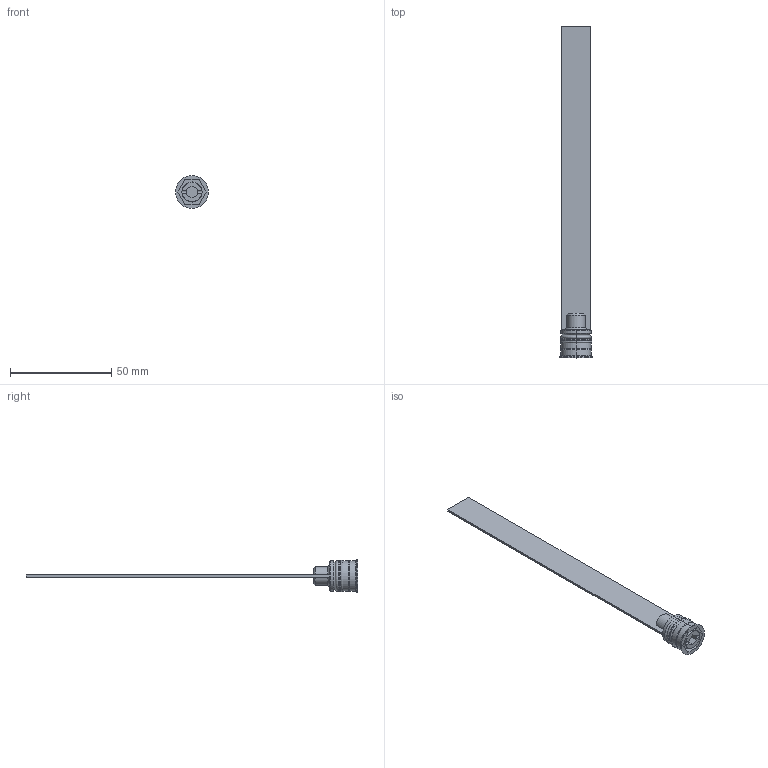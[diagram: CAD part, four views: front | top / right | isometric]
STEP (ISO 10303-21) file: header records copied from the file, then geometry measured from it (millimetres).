
FILE_DESCRIPTION (( 'STEP AP203' ), '1' );
FILE_NAME ('RL15Fx150.STEP', '2015-12-02T15:00:34', ( 'Balzi' ), ( '' ), 'SwSTEP 2.0', 'SolidWorks 2015', '' );
FILE_SCHEMA (( 'CONFIG_CONTROL_DESIGN' ));
Length unit declared in the file: millimetre
Products named in the file (1): RL15Fx150
Bounding box: 16.25 x 164 x 16.25 mm (x, y, z)
Volume: 4825.2 mm3; surface area: 6349.6 mm2
Topology: 1 solids, 1 shells, 72 faces, 171 edges, 105 vertices
Faces by surface type: plane 30, cylinder 17, cone 17, torus 8
Entity records: 2165 total; most frequent: CARTESIAN_POINT 399, DIRECTION 370, ORIENTED_EDGE 342, EDGE_CURVE 171, AXIS2_PLACEMENT_3D 140, VERTEX_POINT 105, LINE 90, VECTOR 90
